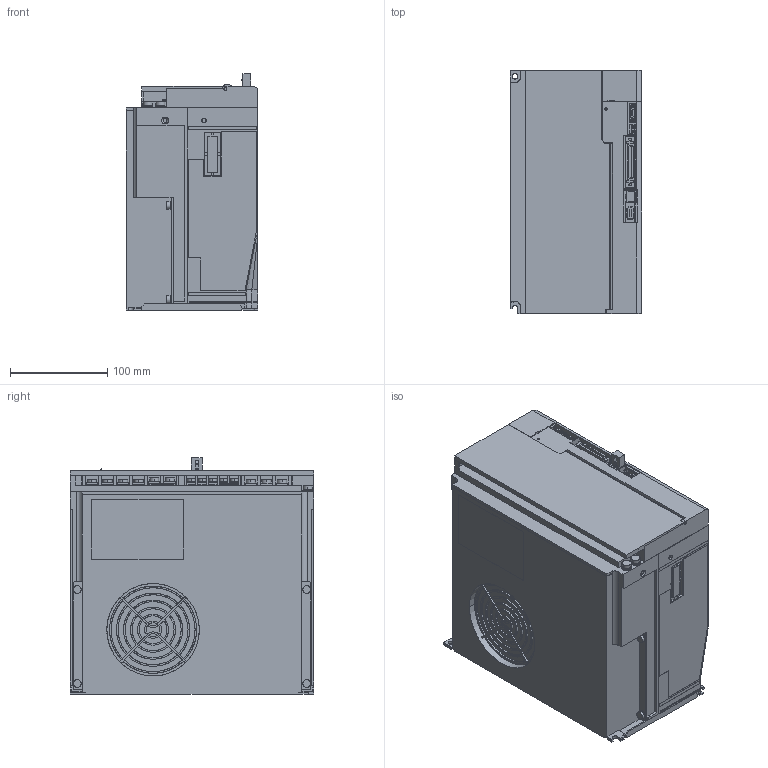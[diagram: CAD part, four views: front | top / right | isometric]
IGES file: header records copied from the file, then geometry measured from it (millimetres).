
Start section: SolidWorks IGES file using analytic representation for surfaces
Global section: file name: C:\YASKAWA\sgdv_170d0_a.IGS; native system: SolidWorks 2006 by SolidWorks Corporation; preprocessor: SolidWorks 2006 by SolidWorks Corporation; author: yamanouchi; date: 080617.171658; units: millimetre
Bounding box: 135.6 x 250 x 243 mm (x, y, z)
Surface area: 350676.9 mm2 (no closed solid volume)
Topology: 0 solids, 0 shells, 1931 faces, 18417 edges, 18417 vertices
Faces by surface type: bspline 1601, revolution 330
